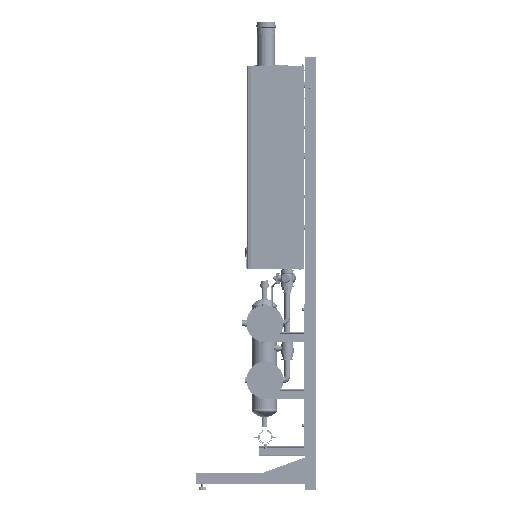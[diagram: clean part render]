
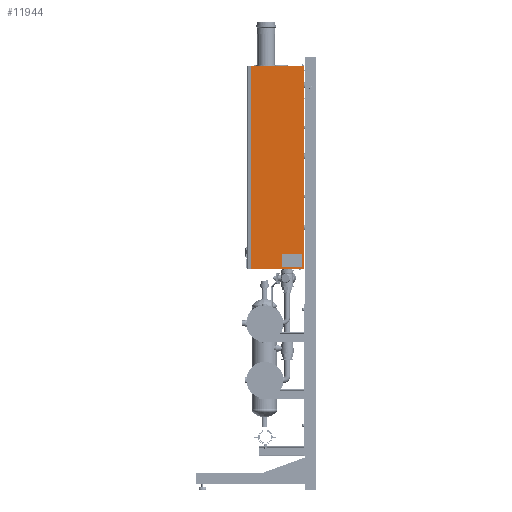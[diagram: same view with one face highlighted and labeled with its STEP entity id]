
A CAD part, left-side view. The second image highlights one B-rep face of the part: STEP entity #11944.
In plain terms, the highlighted planar face has unit normal (-1, 0, 0) as drawn and (1, 0, 0) by its records, which use the part's own axes.
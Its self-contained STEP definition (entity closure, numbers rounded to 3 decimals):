
#11944 = ADVANCED_FACE( '', ( #22931 ), #22932, .T. );
#22931 = FACE_OUTER_BOUND( '', #38075, .T. );
#22932 = PLANE( '', #38076 );
#38075 = EDGE_LOOP( '', ( #60235, #60236, #60237, #60238 ) );
#38076 = AXIS2_PLACEMENT_3D( '', #60239, #60240, #60241 );
#60235 = ORIENTED_EDGE( '', *, *, #97263, .F. );
#60236 = ORIENTED_EDGE( '', *, *, #97264, .T. );
#60237 = ORIENTED_EDGE( '', *, *, #97265, .T. );
#60238 = ORIENTED_EDGE( '', *, *, #94622, .F. );
#60239 = CARTESIAN_POINT( '', ( 45798.281, -1897.112, 410.196 ) );
#60240 = DIRECTION( '', ( 1., 0., 0. ) );
#60241 = DIRECTION( '', ( 0., -1., 0. ) );
#94622 = EDGE_CURVE( '', #107780, #107775, #107782, .T. );
#97263 = EDGE_CURVE( '', #112368, #107780, #112369, .T. );
#97264 = EDGE_CURVE( '', #112368, #112370, #112371, .T. );
#97265 = EDGE_CURVE( '', #112370, #107775, #112372, .T. );
#107775 = VERTEX_POINT( '', #126786 );
#107780 = VERTEX_POINT( '', #126793 );
#107782 = LINE( '', #126796, #126797 );
#112368 = VERTEX_POINT( '', #135135 );
#112369 = LINE( '', #135136, #135137 );
#112370 = VERTEX_POINT( '', #135138 );
#112371 = LINE( '', #135139, #135140 );
#112372 = LINE( '', #135141, #135142 );
#126786 = CARTESIAN_POINT( '', ( 45798.281, -2139.612, -520.309 ) );
#126793 = CARTESIAN_POINT( '', ( 45798.281, -1897.112, -520.309 ) );
#126796 = CARTESIAN_POINT( '', ( 45798.281, -1897.112, -520.309 ) );
#126797 = VECTOR( '', #158776, 1000. );
#135135 = CARTESIAN_POINT( '', ( 45798.281, -1897.112, 410.196 ) );
#135136 = CARTESIAN_POINT( '', ( 45798.281, -1897.112, 410.196 ) );
#135137 = VECTOR( '', #162256, 1000. );
#135138 = CARTESIAN_POINT( '', ( 45798.281, -2139.612, 410.196 ) );
#135139 = CARTESIAN_POINT( '', ( 45798.281, -1897.112, 410.196 ) );
#135140 = VECTOR( '', #162257, 1000. );
#135141 = CARTESIAN_POINT( '', ( 45798.281, -2139.612, 410.196 ) );
#135142 = VECTOR( '', #162258, 1000. );
#158776 = DIRECTION( '', ( 0., -1., 0. ) );
#162256 = DIRECTION( '', ( 0., 0., -1. ) );
#162257 = DIRECTION( '', ( 0., -1., 0. ) );
#162258 = DIRECTION( '', ( 0., 0., -1. ) );
